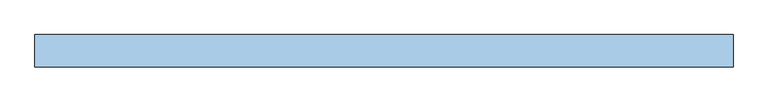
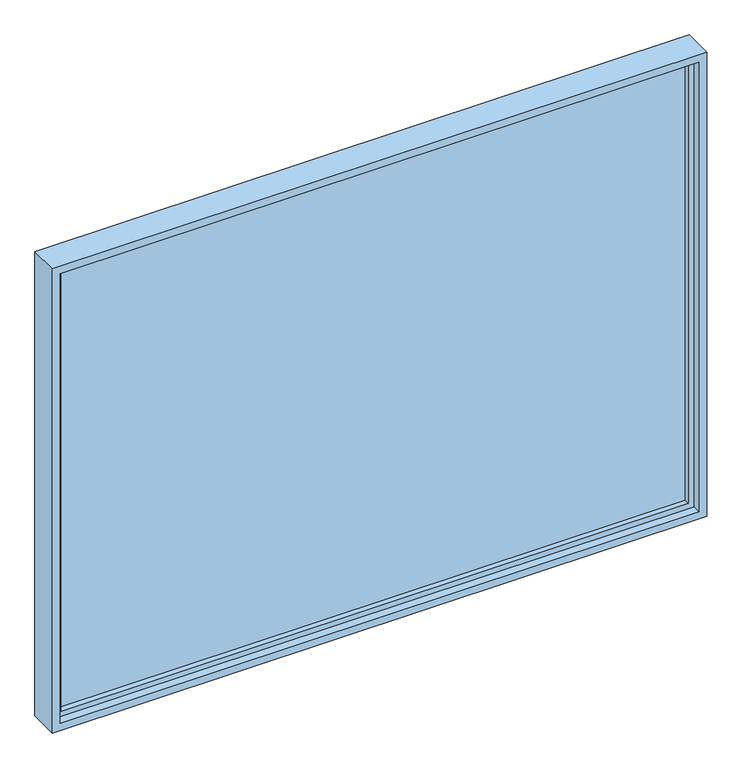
"""IFC4 building model written with IfcOpenShell, lengths in millimetres: window geometry, WD000-창 : WD000-창 3400x2550."""

from ifc_helpers import new_model, si_unit, frame, origin, place, context, project, spatial, polyline, outline, extrude, source, transform, mapped, element, save


def window_ffe5d9b1(model_context):
    return source(origin(), model_context, "Body", "SweptSolid", [
        extrude(outline(polyline([(1630.0, 6.0), (1630.0, -6.0), (-1630.0, -6.0), (-1630.0, 6.0), (1630.0, 6.0)])), frame((0.0, 0.0, 870.0), z_axis=(0.0, 0.0, 1.0), x_axis=(1.0, 0.0, 0.0)), (0.0, 0.0, 1.0), 2410.0),
        extrude(outline(polyline([(3310.0, -1660.0), (840.0, -1660.0), (840.0, 1660.0), (3310.0, 1660.0), (3310.0, -1660.0)]), holes=[polyline([(3280.0, 1630.0), (870.0, 1630.0), (870.0, -1630.0), (3280.0, -1630.0), (3280.0, 1630.0)])]), frame((0.0, -35.0, 0.0), z_axis=(0.0, 1.0, 0.0), x_axis=(0.0, 0.0, 1.0)), (0.0, 0.0, 1.0), 70.0),
        extrude(outline(polyline([(3350.0, 1700.0), (3350.0, -1700.0), (800.0, -1700.0), (800.0, 1700.0), (3350.0, 1700.0)]), holes=[polyline([(3310.0, 1660.0), (840.0, 1660.0), (840.0, -1660.0), (3310.0, -1660.0), (3310.0, 1660.0)])]), frame((0.0, -78.6430223, 0.0), z_axis=(0.0, 1.0, 0.0), x_axis=(0.0, 0.0, 1.0)), (0.0, 0.0, 1.0), 157.2860446),
    ])


if __name__ == "__main__":
    model = new_model("IFC4")
    model_context = context("Model", 3, world=origin())
    ifc_project = project(units=[si_unit("LENGTHUNIT", "METRE", prefix="MILLI")], contexts=[model_context])
    site = spatial("IfcSite", under=ifc_project)
    building = spatial("IfcBuilding", under=site)
    placement = place(None, origin())
    window_shape = window_ffe5d9b1(model_context)
    element("IfcWindow", 1, ObjectType="WD000-창 : WD000-창 3400x2550", at=placement, inside=building, context=model_context, shape_type="MappedRepresentation", body=[
        mapped(window_shape, transform((0.0, 0.0, 0.0), x_axis=(1.0, 0.0, 0.0), y_axis=(0.0, 1.0, 0.0), z_axis=(0.0, 0.0, 1.0))),
    ])
    save(model, "model.ifc")
